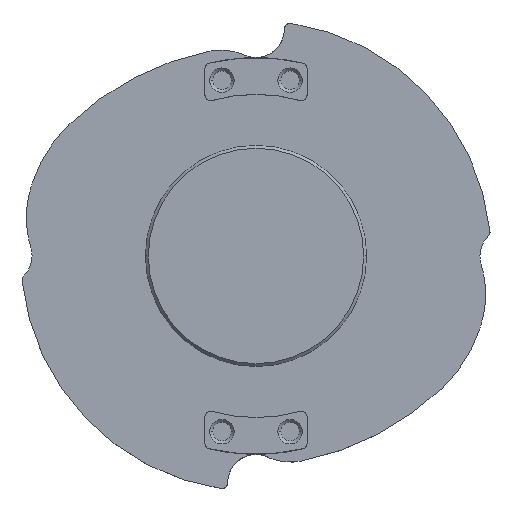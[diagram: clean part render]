
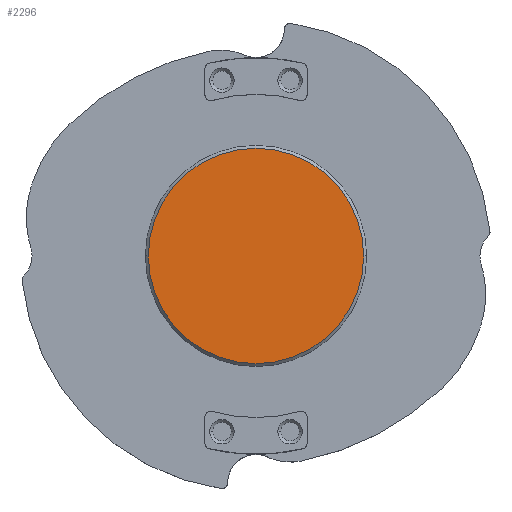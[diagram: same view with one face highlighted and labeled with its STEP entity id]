
A CAD part, top view. The second image highlights one B-rep face of the part: STEP entity #2296.
In plain terms, the highlighted planar face has unit normal (0, 0, 1).
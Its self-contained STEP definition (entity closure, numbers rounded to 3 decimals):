
#865=CARTESIAN_POINT('',(0.,0.,80.));
#866=DIRECTION('',(0.,0.,-1.));
#867=DIRECTION('',(1.,0.,0.));
#868=AXIS2_PLACEMENT_3D('',#865,#866,#867);
#870=CARTESIAN_POINT('',(0.,0.,80.));
#871=DIRECTION('',(0.,0.,-1.));
#872=DIRECTION('',(0.,-1.,0.));
#873=AXIS2_PLACEMENT_3D('',#870,#871,#872);
#875=CARTESIAN_POINT('',(0.,0.,80.));
#876=DIRECTION('',(0.,0.,-1.));
#877=DIRECTION('',(-1.,0.,0.));
#878=AXIS2_PLACEMENT_3D('',#875,#876,#877);
#880=CARTESIAN_POINT('',(0.,0.,80.));
#881=DIRECTION('',(0.,0.,-1.));
#882=DIRECTION('',(0.,1.,0.));
#883=AXIS2_PLACEMENT_3D('',#880,#881,#882);
#1001=CARTESIAN_POINT('',(0.,19.,80.));
#1002=CARTESIAN_POINT('',(19.,0.,80.));
#1003=VERTEX_POINT('',#1001);
#1004=VERTEX_POINT('',#1002);
#1005=CARTESIAN_POINT('',(-19.,0.,80.));
#1006=VERTEX_POINT('',#1005);
#1007=CARTESIAN_POINT('',(0.,-19.,80.));
#1008=VERTEX_POINT('',#1007);
#2283=CARTESIAN_POINT('',(0.,0.,80.));
#2284=DIRECTION('',(0.,0.,1.));
#2285=DIRECTION('',(1.,0.,0.));
#2286=AXIS2_PLACEMENT_3D('',#2283,#2284,#2285);
#2287=PLANE('',#2286);
#2289=ORIENTED_EDGE('',*,*,#2288,.T.);
#2291=ORIENTED_EDGE('',*,*,#2290,.T.);
#2292=ORIENTED_EDGE('',*,*,#2272,.T.);
#2293=ORIENTED_EDGE('',*,*,#2270,.T.);
#2294=EDGE_LOOP('',(#2289,#2291,#2292,#2293));
#2295=FACE_OUTER_BOUND('',#2294,.F.);
#2296=ADVANCED_FACE('',(#2295),#2287,.T.);
#869=CIRCLE('',#868,19.);
#874=CIRCLE('',#873,19.);
#879=CIRCLE('',#878,19.);
#884=CIRCLE('',#883,19.);
#2270=EDGE_CURVE('',#1003,#1004,#884,.T.);
#2272=EDGE_CURVE('',#1006,#1003,#879,.T.);
#2288=EDGE_CURVE('',#1004,#1008,#869,.T.);
#2290=EDGE_CURVE('',#1008,#1006,#874,.T.);
